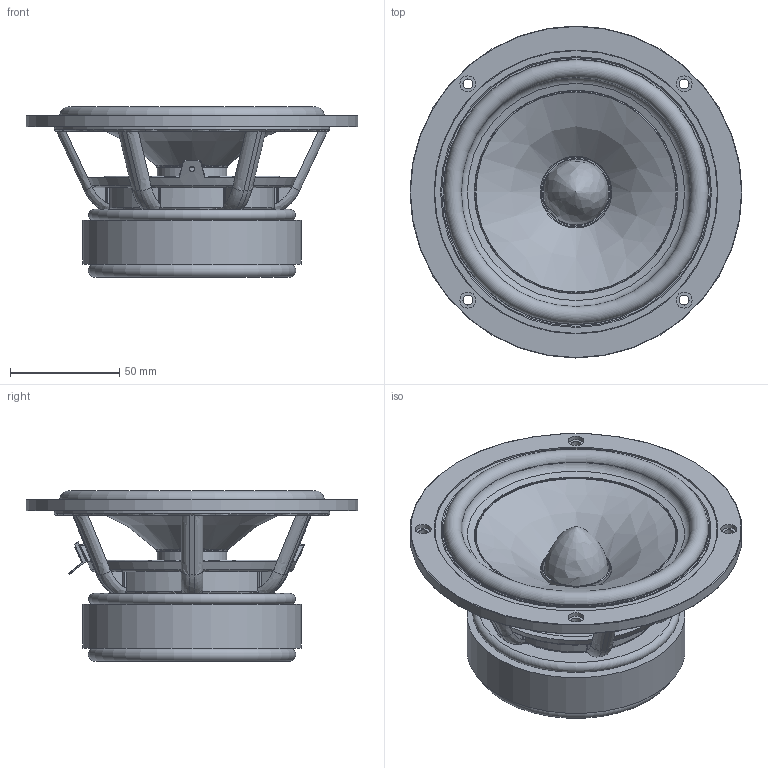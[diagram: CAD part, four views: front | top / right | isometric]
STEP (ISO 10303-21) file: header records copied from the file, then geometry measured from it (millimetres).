
FILE_DESCRIPTION(/* description */ (''),/* implementation_level */ '2;1');
FILE_NAME(/* name */ 'E150MR-4.step',/* time_stamp */ '2026-01-21T10:54:51-05:00',/* author */ (''),/* organization */ (''),/* preprocessor_version */ 'ST-DEVELOPER v20.1',/* originating_system */ 'Autodesk Translation Framework v14.21.0.0',/* authorisation */ '');
FILE_SCHEMA (('AUTOMOTIVE_DESIGN { 1 0 10303 214 3 1 1 }'));
Length unit declared in the file: millimetre
Products named in the file (2): 喇叭组合; 铝子弹头
Assembly tree (1 placements, depth 2):
  喇叭组合
    铝子弹头
Bounding box: 152 x 152 x 77.99 mm (x, y, z)
Volume: 366075.6 mm3; surface area: 115412.8 mm2
Topology: 1 solids, 4 shells, 383 faces, 992 edges, 620 vertices
Faces by surface type: plane 156, cylinder 70, torus 68, cone 51, bspline 38
Full cylindrical faces by diameter (mm): 2.4 x2, 3.5 x4, 4 x4, 4.5 x4, 6 x4, 7.3 x4, 8.2 x1, 27.5 x1, 29.1 x1, 29.5 x2, 29.8 x1, 30.5 x1, 30.7 x1, 31.85 x3, 45 x1, 48 x1, 80 x1, 88 x1, 90 x1, 93.2 x1, 100 x1, 103.4 x1, 105.814 x1, 120.1 x1, 121 x1, 126 x1, 127 x1, 129.5 x1, 130 x1, 152 x1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
Entity records: 14054 total; most frequent: CARTESIAN_POINT 4697, ORIENTED_EDGE 1996, DIRECTION 1922, EDGE_CURVE 998, AXIS2_PLACEMENT_3D 779, VERTEX_POINT 620, EDGE_LOOP 448, CIRCLE 426
